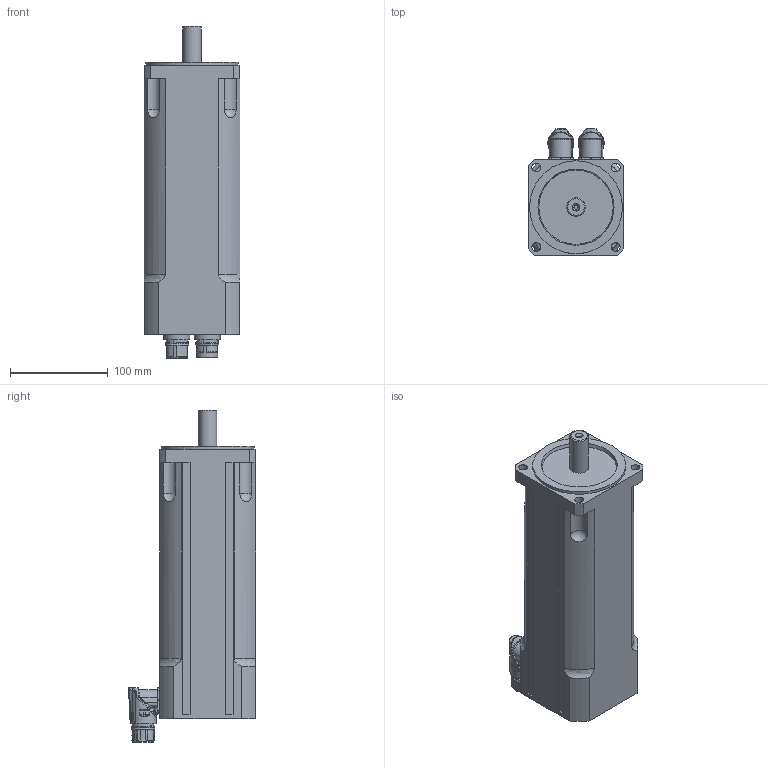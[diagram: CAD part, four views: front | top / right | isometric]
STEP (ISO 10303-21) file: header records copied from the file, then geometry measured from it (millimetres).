
FILE_DESCRIPTION(/* description */ (''),/* implementation_level */ '2;1');
FILE_NAME(/* name */ 'C:\PDF_output\T4000 00 Z_0950_S2.stp',/* time_stamp */ '2013-06-18T14:16:18+02:00',/* author */ ('oslejsek'),/* organization */ (''),/* preprocessor_version */ 'ST-DEVELOPER v15.2',/* originating_system */ 'Autodesk Inventor 2014',/* authorisation */ '');
FILE_SCHEMA (('AUTOMOTIVE_DESIGN { 1 0 10303 214 3 1 1 }'));
Length unit declared in the file: millimetre
Products named in the file (4): T4000 00_0950; BEW_0207_8-polig Stifte; AEW_0214_12-polig Stift; T4000 00 Z_0950_S2
Bounding box: 98 x 130 x 339.67 mm (x, y, z)
Volume: 2504956.4 mm3; surface area: 141680.3 mm2
Topology: 3 solids, 3 shells, 929 faces, 2359 edges, 1504 vertices
Faces by surface type: cylinder 273, bspline 264, plane 256, cone 64, torus 48, sphere 24
Full cylindrical faces by diameter (mm): 1 x16, 1.18 x12, 1.2 x12, 1.3 x4, 2 x4, 2.15 x4, 2.7 x8, 3 x4, 4.134 x1, 4.5 x2, 5.8 x1, 5.9 x2, 6.8 x1, 9 x4, 15.2 x1, 17.4 x1, 19 x1, 19.1 x1, 19.8 x2, 19.9 x1, 20 x2, 21.15 x4, 21.6 x1, 95 x1
Entity records: 36018 total; most frequent: CARTESIAN_POINT 14739, ORIENTED_EDGE 4288, DIRECTION 3901, EDGE_CURVE 2144, AXIS2_PLACEMENT_3D 1629, VERTEX_POINT 1433, EDGE_LOOP 1163, ADVANCED_FACE 927
